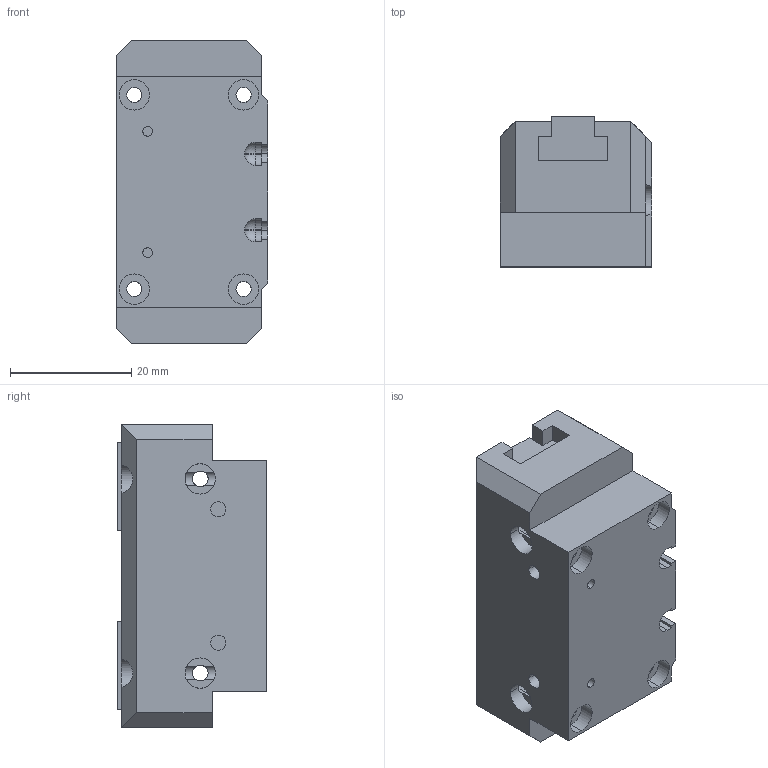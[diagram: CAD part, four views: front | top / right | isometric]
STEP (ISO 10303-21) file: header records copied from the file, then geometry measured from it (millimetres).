
FILE_DESCRIPTION (( 'STEP AP203' ), '1' );
FILE_NAME ('dh1905.STEP', '2011-08-03T07:52:56', ( 'Stefano' ), ( 'Gimatic' ), 'SwSTEP 2.0', 'SolidWorks 2010', '' );
FILE_SCHEMA (( 'CONFIG_CONTROL_DESIGN' ));
Length unit declared in the file: millimetre
Products named in the file (3): dh1905; griffa_DH19; corpo_DH19
Assembly tree (3 placements, depth 2):
  dh1905
    corpo_DH19
    griffa_DH19  x2
Bounding box: 25 x 24.7 x 50 mm (x, y, z)
Volume: 23529.9 mm3; surface area: 10441.6 mm2
Topology: 3 solids, 3 shells, 188 faces, 508 edges, 328 vertices
Faces by surface type: plane 98, cylinder 86, sphere 4
Entity records: 5905 total; most frequent: CARTESIAN_POINT 1321, ORIENTED_EDGE 900, DIRECTION 888, EDGE_CURVE 450, AXIS2_PLACEMENT_3D 315, VERTEX_POINT 292, VECTOR 258, LINE 258
